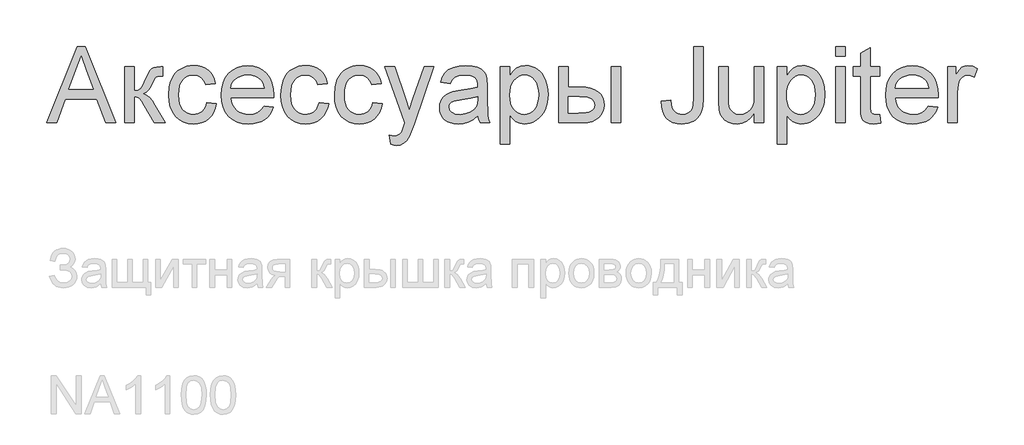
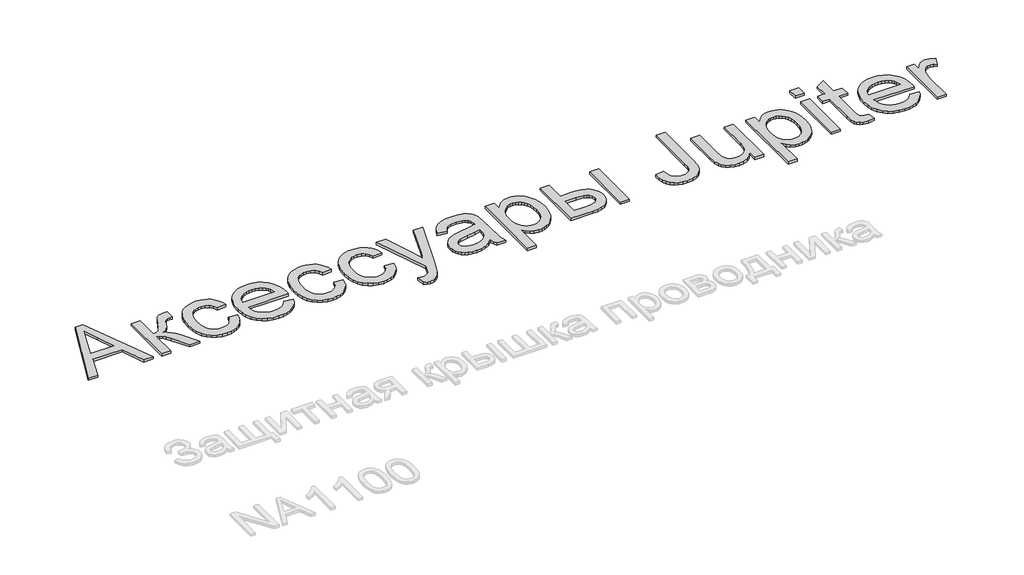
# One storey, part 80 of 124: 1 proxy.
"""IFC4 building model written with IfcOpenShell, lengths in millimetres."""

import ifcopenshell
import ifcopenshell.guid

model = None  # the IFC model being written
_history = None  # IfcOwnerHistory: only IFC2X3 demands one
_inside = {}  # id of a spatial element -> (the spatial element, [elements in it])
_under = {}  # id of a project, library or spatial element -> (it, [spatial elements below it])
_declared = {}  # id of a project -> (the project, [libraries it declares])
_typed = {}  # id of a type object -> (the type object, [elements of that type])
_made_of = {}  # id of a material, layer set ... -> (it, [elements and type objects made of it])


def new_model(schema):
    """Start an empty IFC model of exactly this schema.

    Asked for "IFC4X3", IfcOpenShell would pick the latest addendum, in which some entities
    have other attributes; the version numbers below select the first issue.
    IFC2X3 requires an IfcOwnerHistory on every rooted entity: one is made here for all.
    """
    global model, _history
    if schema == "IFC4X3":
        model = ifcopenshell.file(schema_version=(4, 3, 0, 0))
    else:
        model = ifcopenshell.file(schema=schema)
    _inside.clear()
    _under.clear()
    _declared.clear()
    _typed.clear()
    _made_of.clear()
    _history = None
    if model.schema == "IFC2X3":
        org = make("IfcOrganization", Name="unknown")
        user = make(
            "IfcPersonAndOrganization",
            ThePerson=make("IfcPerson", FamilyName="unknown"),
            TheOrganization=org,
        )
        app = make(
            "IfcApplication",
            ApplicationDeveloper=org,
            Version="unknown",
            ApplicationFullName="unknown",
            ApplicationIdentifier="unknown",
        )
        _history = make(
            "IfcOwnerHistory",
            OwningUser=user,
            OwningApplication=app,
            ChangeAction="ADDED",
            CreationDate=0,
        )
    return model


def make(cls, **values):
    """One entity of the class cls with the attributes given. An attribute that is None is left unset."""
    return model.create_entity(
        cls, **{name: value for name, value in values.items() if value is not None}
    )


def rooted(cls, **values):
    """An entity with a GlobalId (a new one), such as an element, a storey or a relation."""
    return make(cls, GlobalId=ifcopenshell.guid.new(), OwnerHistory=_history, **values)


def si_unit(unit_type, name, prefix=None):
    """IfcSIUnit, for example si_unit("LENGTHUNIT", "METRE", prefix="MILLI")."""
    return make("IfcSIUnit", UnitType=unit_type, Prefix=prefix, Name=name)


def assignment(units):
    """IfcUnitAssignment: the units of a project."""
    return None if units is None else make("IfcUnitAssignment", Units=units)


def point(xyz):
    """IfcCartesianPoint."""
    return None if xyz is None else make("IfcCartesianPoint", Coordinates=xyz)


def direction(xyz):
    """IfcDirection."""
    return None if xyz is None else make("IfcDirection", DirectionRatios=xyz)


def frame(location, z_axis=None, x_axis=None):
    """IfcAxis2Placement3D, a coordinate frame: its origin and axes. An axis left out is left unset."""
    return make(
        "IfcAxis2Placement3D",
        Location=point(location),
        Axis=direction(z_axis),
        RefDirection=direction(x_axis),
    )


def origin():
    """The frame at (0, 0, 0) with its axes left unset."""
    return frame((0.0, 0.0, 0.0))


def origin_with_axes():
    """The frame at (0, 0, 0) with the z axis (0, 0, 1) and the x axis (1, 0, 0) written out."""
    return frame((0.0, 0.0, 0.0), z_axis=(0.0, 0.0, 1.0), x_axis=(1.0, 0.0, 0.0))


def place(relative_to, where):
    """IfcLocalPlacement: puts the frame where relative to a parent placement (None: the world)."""
    return make(
        "IfcLocalPlacement", PlacementRelTo=relative_to, RelativePlacement=where
    )


def context(
    kind, dimensions, precision=None, world=None, true_north=None, identifier=None
):
    """IfcGeometricRepresentationContext, for example the 3D "Model" context."""
    return make(
        "IfcGeometricRepresentationContext",
        ContextIdentifier=identifier,
        ContextType=kind,
        CoordinateSpaceDimension=dimensions,
        Precision=precision,
        WorldCoordinateSystem=world,
        TrueNorth=true_north,
    )


def project(units=None, contexts=None):
    """IfcProject with its units and contexts."""
    return rooted(
        "IfcProject",
        Name="project",
        RepresentationContexts=contexts,
        UnitsInContext=assignment(units),
    )


def spatial(cls, under=None, at=None, **own):
    """A site, building, storey or space (cls), placed at a placement, below another one or the project."""
    s = rooted(cls, ObjectPlacement=at, **own)
    if under is not None:
        _under.setdefault(under.id(), (under, []))[1].append(s)
    return s


def polyline(points):
    """IfcPolyline through the points."""
    return make("IfcPolyline", Points=[point(p) for p in points])


def outline(outer, holes=None, kind="AREA"):
    """IfcArbitraryClosedProfileDef: a profile drawn as a closed curve; with holes, ...WithVoids."""
    if holes is None:
        return make("IfcArbitraryClosedProfileDef", ProfileType=kind, OuterCurve=outer)
    return make(
        "IfcArbitraryProfileDefWithVoids",
        ProfileType=kind,
        OuterCurve=outer,
        InnerCurves=holes,
    )


def extrude(swept, where, along, depth):
    """IfcExtrudedAreaSolid: the profile swept, set in the frame where, extruded along a direction by depth."""
    return make(
        "IfcExtrudedAreaSolid",
        SweptArea=swept,
        Position=where,
        ExtrudedDirection=direction(along),
        Depth=depth,
    )


def shape(context_of_items, identifier, shape_type, items):
    """IfcShapeRepresentation: the items that make up one representation, for example the "Body"."""
    return make(
        "IfcShapeRepresentation",
        ContextOfItems=context_of_items,
        RepresentationIdentifier=identifier,
        RepresentationType=shape_type,
        Items=items,
    )


def made_of(thing, what):
    """Note that an element or type object is made of a material, layer set ...; save() writes the relation."""
    if what is not None:
        _made_of.setdefault(what.id(), (what, []))[1].append(thing)
    return thing


def element(
    cls,
    number,
    at=None,
    inside=None,
    cuts=None,
    type_object=None,
    material=None,
    context=None,
    identifier="Body",
    shape_type=None,
    held_by="IfcProductDefinitionShape",
    body=None,
    shapes=None,
    **own,
):
    """One element of the class cls, such as IfcWall. Its Tag is "e" and its number.

    at: its placement. inside: the storey or other place that contains it. cuts: it is an
    opening in that element (IfcRelVoidsElement). A single representation is given by context,
    identifier, shape_type and body (its items); several are given by shapes. held_by: the class
    of the entity that holds the representations. save() writes the other relations.
    """
    e = rooted(cls, Tag="e%d" % number, ObjectPlacement=at, **own)
    if body is not None:
        shapes = [shape(context, identifier, shape_type, body)]
    if shapes is not None:
        e.Representation = make(held_by, Representations=shapes)
    if inside is not None:
        _inside.setdefault(inside.id(), (inside, []))[1].append(e)
    if cuts is not None:
        rooted(
            "IfcRelVoidsElement", RelatingBuildingElement=cuts, RelatedOpeningElement=e
        )
    if type_object is not None:
        _typed.setdefault(type_object.id(), (type_object, []))[1].append(e)
    return made_of(e, material)


def aggregate(whole, parts):
    """IfcRelAggregates: a whole, such as a stair, and the parts it consists of."""
    return rooted("IfcRelAggregates", RelatingObject=whole, RelatedObjects=parts)


def save(model, path):
    """Write the relations noted so far, then the file.

    IfcRelAggregates (storeys below a building ...), IfcRelContainedInSpatialStructure (elements
    in a storey), IfcRelDefinesByType, IfcRelAssociatesMaterial and IfcRelDeclares: one each for
    every whole, place, type object, material and project.
    """
    for whole, parts in _under.values():
        aggregate(whole, parts)
    for where, things in _inside.values():
        rooted(
            "IfcRelContainedInSpatialStructure",
            RelatedElements=things,
            RelatingStructure=where,
        )
    for kind, things in _typed.values():
        rooted("IfcRelDefinesByType", RelatedObjects=things, RelatingType=kind)
    for what, things in _made_of.values():
        rooted("IfcRelAssociatesMaterial", RelatedObjects=things, RelatingMaterial=what)
    for by, libraries in _declared.values():
        rooted("IfcRelDeclares", RelatingContext=by, RelatedDefinitions=libraries)
    model.write(path)


model = new_model("IFC4")

# Units and contexts
model_context = context("Model", 3, world=origin())
ifc_project = project(units=[si_unit("LENGTHUNIT", "METRE", prefix="MILLI")], contexts=[model_context])

# Site, building, storey
site = spatial("IfcSite", under=ifc_project)
building = spatial("IfcBuilding", under=site)
storey = spatial("IfcBuildingStorey", under=building, Name="Этаж 01", Elevation=0.0)

# Proxy
placement = place(None, origin())
element("IfcBuildingElementProxy", 1, Name="600 мм Arial", ObjectType="600 мм Arial", at=placement, inside=storey, context=model_context, shape_type="SweptSolid", body=[
    extrude(outline(polyline([(45202.6378802, -58774.498362), (45443.2327051, -58171.7605011), (45507.391325, -58171.7605011), (45747.9861499, -58774.498362), (45668.3764861, -58774.498362), (45599.3618238, -58586.1427805), (45351.1150535, -58586.1427805), (45282.247544, -58774.498362), (45202.6378802, -58774.498362)]), holes=[polyline([(45378.7797795, -58510.8005479), (45571.8442506, -58510.8005479), (45517.5448681, -58362.6176802), (45475.3120151, -58247.1027337), (45437.7880516, -58349.668234), (45378.7797795, -58510.8005479)])]), origin_with_axes(), (0.0, 0.0, 1.0), 20.0),
    extrude(outline(polyline([(45819.0609514, -58331.8627454), (45894.403184, -58331.8627454), (45894.403184, -58520.2183269), (45925.0477542, -58516.8338126), (45944.8765937, -58506.6802695), (45962.4245649, -58480.1927659), (45986.22653, -58427.8063697), (46005.411576, -58384.9665114), (46020.5867083, -58359.7482006), (46034.7501651, -58346.0078081), (46050.9001847, -58337.6017045), (46073.2490159, -58333.2974852), (46106.0089076, -58331.8627454), (46120.4298818, -58331.8627454), (46120.4298818, -58407.6464364), (46100.1227957, -58407.204978), (46076.578348, -58409.1915408), (46063.3345962, -58415.1512291), (46052.5924419, -58431.7427071), (46037.4357037, -58464.7417221), (46021.5248074, -58497.7959193), (46007.0486509, -58518.378917), (45989.5190738, -58532.1193095), (45964.4479158, -58544.6456914), (45988.3234573, -58555.2498899), (46011.9782696, -58573.9658864), (46035.4123527, -58600.7936809), (46058.6257066, -58635.7332734), (46139.26544, -58774.498362), (46053.6225115, -58774.498362), (45974.6014589, -58638.6763294), (45953.2643032, -58602.5319234), (45934.8702034, -58581.2131617), (45916.2921627, -58570.7837072), (45894.403184, -58567.3072223), (45894.403184, -58774.498362), (45819.0609514, -58774.498362), (45819.0609514, -58331.8627454)])), origin_with_axes(), (0.0, 0.0, 1.0), 20.0),
    extrude(outline(polyline([(46468.8877076, -58614.3961177), (46544.2299402, -58623.8138968), (46536.0353688, -58659.3650931), (46523.2238783, -58690.8236022), (46505.7954688, -58718.1894241), (46483.7501402, -58741.4625588), (46458.0167947, -58760.0360011), (46429.5243342, -58773.3027455), (46398.2727587, -58781.2627922), (46364.2620682, -58783.9161411), (46322.0062225, -58780.2143285), (46284.1189756, -58769.1088908), (46250.6003273, -58750.5998279), (46221.4502777, -58724.6871399), (46197.8552462, -58691.8582703), (46181.0016523, -58652.6006629), (46170.889496, -58606.9143176), (46167.5187772, -58554.7992345), (46173.2761304, -58487.7527409), (46180.4728219, -58457.5818187), (46190.5481901, -58429.6457797), (46203.5712127, -58404.5056439), (46219.6108677, -58382.7224312), (46238.6671551, -58364.2961418), (46260.7400748, -58349.2267756), (46284.8317469, -58337.509734), (46309.9442916, -58329.1404186), (46336.0777089, -58324.1188294), (46363.2319986, -58322.4449663), (46396.6586764, -58324.7442288), (46426.8939779, -58331.6420162), (46453.9379031, -58343.1383286), (46477.7904519, -58359.2331658), (46498.0469543, -58379.5586461), (46514.3027399, -58403.7468873), (46526.5578089, -58431.7978894), (46534.8121612, -58463.7116525), (46459.4699286, -58473.1294316), (46445.8031124, -58440.2591753), (46424.521139, -58416.6963335), (46396.8012307, -58402.5144826), (46363.8206098, -58397.7871989), (46338.2206215, -58400.1140526), (46315.1314278, -58407.0946134), (46294.5530286, -58418.7288815), (46276.4854242, -58435.0168569), (46261.7747429, -58456.3356185), (46251.2671134, -58483.0622454), (46244.9625357, -58515.1967377), (46242.8610098, -58552.7390953), (46244.9165504, -58590.8470715), (46251.0831724, -58623.3540443), (46261.3608756, -58650.2600137), (46275.7496602, -58671.5649798), (46293.4585797, -58687.7563861), (46313.696688, -58699.3216763), (46336.4639849, -58706.2608504), (46361.7604706, -58708.5739085), (46400.7743562, -58702.7981611), (46417.6463442, -58695.578477), (46432.7616957, -58685.4709192), (46445.6973464, -58672.3651231), (46456.0302319, -58656.1507242), (46463.7603523, -58636.8277224), (46468.8877076, -58614.3961177)])), origin_with_axes(), (0.0, 0.0, 1.0), 20.0),
    extrude(outline(polyline([(46920.0581865, -58642.6494549), (46993.9288912, -58652.067234), (46982.6027242, -58681.6541435), (46967.3126288, -58707.7277799), (46948.0586049, -58730.2881432), (46924.8406525, -58749.3352335), (46897.8978948, -58764.4643806), (46867.4694553, -58775.2709142), (46833.5553339, -58781.7548344), (46796.1555305, -58783.9161411), (46749.406926, -58780.1867374), (46707.7534871, -58768.9985262), (46671.1952138, -58750.3515075), (46639.7321062, -58724.2456815), (46614.431022, -58691.4076149), (46596.358819, -58652.5638747), (46585.5154972, -58607.714461), (46581.9010566, -58556.8593737), (46585.5522854, -58504.2798395), (46596.5059718, -58457.9359052), (46614.7621158, -58417.8275706), (46640.3207174, -58383.9548359), (46671.7010516, -58357.044268), (46707.4223933, -58337.8224337), (46747.4847426, -58326.2893332), (46791.8880994, -58322.4449663), (46834.861315, -58326.2801361), (46873.7234492, -58337.7856455), (46908.4745022, -58356.9614945), (46939.1144739, -58383.8076831), (46964.125851, -58417.6068414), (46981.9911204, -58457.6415996), (46992.710282, -58503.9119575), (46996.2833359, -58556.4179153), (46995.8418775, -58576.7250014), (46657.2432892, -58576.7250014), (46661.6072893, -58606.7901575), (46670.2847059, -58633.1213113), (46683.2755389, -58655.7184628), (46700.5797882, -58674.5816121), (46721.2409608, -58689.4532418), (46744.3025633, -58700.0758344), (46769.7645959, -58706.4493899), (46797.6270585, -58708.5739085), (46837.726196, -58704.6375711), (46871.4977632, -58692.8285591), (46898.94176, -58672.4111083), (46920.0581865, -58642.6494549)]), holes=[polyline([(46657.2432892, -58501.3827688), (46920.9411033, -58501.3827688), (46910.750772, -58461.5779369), (46901.9859835, -58445.924558), (46890.7747797, -58433.1038705), (46870.2285703, -58417.6528267), (46846.8496695, -58406.6163668), (46820.6380773, -58399.9944909), (46791.5937938, -58397.7871989), (46765.1016916, -58399.548434), (46740.8076844, -58404.8321391), (46718.711772, -58413.6383144), (46698.8139546, -58425.9669598), (46682.1167106, -58441.2478581), (46669.6225183, -58458.9107924), (46661.3313778, -58478.9557627), (46657.2432892, -58501.3827688)])]), origin_with_axes(), (0.0, 0.0, 1.0), 20.0),
    extrude(outline(polyline([(47354.1589408, -58614.3961177), (47429.5011734, -58623.8138968), (47421.306602, -58659.3650931), (47408.4951115, -58690.8236022), (47391.066702, -58718.1894241), (47369.0213734, -58741.4625588), (47343.2880279, -58760.0360011), (47314.7955673, -58773.3027455), (47283.5439919, -58781.2627922), (47249.5333014, -58783.9161411), (47207.2774557, -58780.2143285), (47169.3902088, -58769.1088908), (47135.8715605, -58750.5998279), (47106.7215109, -58724.6871399), (47083.1264794, -58691.8582703), (47066.2728855, -58652.6006629), (47056.1607292, -58606.9143176), (47052.7900104, -58554.7992345), (47058.5473636, -58487.7527409), (47065.7440551, -58457.5818187), (47075.8194233, -58429.6457797), (47088.8424459, -58404.5056439), (47104.8821009, -58382.7224312), (47123.9383882, -58364.2961418), (47146.011308, -58349.2267756), (47170.1029801, -58337.509734), (47195.2155248, -58329.1404186), (47221.348942, -58324.1188294), (47248.5032318, -58322.4449663), (47281.9299096, -58324.7442288), (47312.1652111, -58331.6420162), (47339.2091363, -58343.1383286), (47363.0616851, -58359.2331658), (47383.3181875, -58379.5586461), (47399.5739731, -58403.7468873), (47411.8290421, -58431.7978894), (47420.0833944, -58463.7116525), (47344.7411618, -58473.1294316), (47331.0743456, -58440.2591753), (47309.7923722, -58416.6963335), (47282.0724639, -58402.5144826), (47249.091843, -58397.7871989), (47223.4918547, -58400.1140526), (47200.4026609, -58407.0946134), (47179.8242618, -58418.7288815), (47161.7566574, -58435.0168569), (47147.0459761, -58456.3356185), (47136.5383466, -58483.0622454), (47130.2337689, -58515.1967377), (47128.132243, -58552.7390953), (47130.1877836, -58590.8470715), (47136.3544056, -58623.3540443), (47146.6321088, -58650.2600137), (47161.0208934, -58671.5649798), (47178.7298129, -58687.7563861), (47198.9679212, -58699.3216763), (47221.7352181, -58706.2608504), (47247.0317038, -58708.5739085), (47286.0455894, -58702.7981611), (47302.9175774, -58695.578477), (47318.0329289, -58685.4709192), (47330.9685796, -58672.3651231), (47341.3014651, -58656.1507242), (47349.0315855, -58636.8277224), (47354.1589408, -58614.3961177)])), origin_with_axes(), (0.0, 0.0, 1.0), 20.0),
    extrude(outline(polyline([(47777.9589993, -58614.3961177), (47853.3012319, -58623.8138968), (47845.1066604, -58659.3650931), (47832.29517, -58690.8236022), (47814.8667604, -58718.1894241), (47792.8214319, -58741.4625588), (47767.0880863, -58760.0360011), (47738.5956258, -58773.3027455), (47707.3440503, -58781.2627922), (47673.3333598, -58783.9161411), (47631.0775142, -58780.2143285), (47593.1902672, -58769.1088908), (47559.6716189, -58750.5998279), (47530.5215693, -58724.6871399), (47506.9265379, -58691.8582703), (47490.0729439, -58652.6006629), (47479.9607876, -58606.9143176), (47476.5900688, -58554.7992345), (47482.347422, -58487.7527409), (47489.5441136, -58457.5818187), (47499.6194817, -58429.6457797), (47512.6425044, -58404.5056439), (47528.6821593, -58382.7224312), (47547.7384467, -58364.2961418), (47569.8113664, -58349.2267756), (47593.9030386, -58337.509734), (47619.0155833, -58329.1404186), (47645.1490005, -58324.1188294), (47672.3032903, -58322.4449663), (47705.729968, -58324.7442288), (47735.9652695, -58331.6420162), (47763.0091947, -58343.1383286), (47786.8617436, -58359.2331658), (47807.1182459, -58379.5586461), (47823.3740316, -58403.7468873), (47835.6291005, -58431.7978894), (47843.8834528, -58463.7116525), (47768.5412202, -58473.1294316), (47754.8744041, -58440.2591753), (47733.5924307, -58416.6963335), (47705.8725223, -58402.5144826), (47672.8919015, -58397.7871989), (47647.2919131, -58400.1140526), (47624.2027194, -58407.0946134), (47603.6243203, -58418.7288815), (47585.5567158, -58435.0168569), (47570.8460345, -58456.3356185), (47560.338405, -58483.0622454), (47554.0338273, -58515.1967377), (47551.9323014, -58552.7390953), (47553.9878421, -58590.8470715), (47560.154464, -58623.3540443), (47570.4321673, -58650.2600137), (47584.8209518, -58671.5649798), (47602.5298713, -58687.7563861), (47622.7679796, -58699.3216763), (47645.5352766, -58706.2608504), (47670.8317623, -58708.5739085), (47709.8456479, -58702.7981611), (47726.7176359, -58695.578477), (47741.8329873, -58685.4709192), (47754.768638, -58672.3651231), (47765.1015235, -58656.1507242), (47772.831644, -58636.8277224), (47777.9589993, -58614.3961177)])), origin_with_axes(), (0.0, 0.0, 1.0), 20.0),
    extrude(outline(polyline([(47919.2256854, -58944.0183854), (47909.8079063, -58871.4720559), (47948.0676338, -58878.0939318), (47968.190779, -58876.0153986), (47983.8257638, -58869.7797988), (47996.0026578, -58859.8285908), (48005.7515307, -58846.6032331), (48026.3529224, -58791.1266282), (48032.2390343, -58772.8796812), (47872.13679, -58331.8627454), (47951.599301, -58331.8627454), (48036.5064655, -58577.6079182), (48066.0841779, -58675.9059873), (48095.6618903, -58589.0858364), (48182.9234996, -58331.8627454), (48261.7973993, -58331.8627454), (48107.7284197, -58785.0933635), (48067.7028587, -58883.3914326), (48047.2118315, -58914.7717668), (48023.9984776, -58936.5135927), (47997.0327274, -58949.2055215), (47965.2845112, -58953.4361645), (47943.4691089, -58951.0817197), (47919.2256854, -58944.0183854)])), origin_with_axes(), (0.0, 0.0, 1.0), 20.0),
    extrude(outline(polyline([(48606.723558, -58717.9916875), (48570.7263048, -58748.8569869), (48533.6621938, -58769.0537085), (48494.6850964, -58780.2005329), (48452.948884, -58783.9161411), (48419.4026446, -58781.681258), (48389.9858805, -58774.9766086), (48364.6985919, -58763.802193), (48343.5407787, -58748.1580111), (48326.8343376, -58729.0373444), (48314.9011653, -58707.4334743), (48307.741262, -58683.3464006), (48305.3546276, -58656.7761235), (48308.9598711, -58625.5429422), (48319.7756018, -58597.1792403), (48336.4590503, -58572.8990286), (48357.6674473, -58553.9163177), (48382.5914524, -58539.5689199), (48410.4217254, -58529.1946476), (48475.6104149, -58517.8638822), (48552.6449047, -58505.9445055), (48606.2820996, -58491.9649897), (48606.723558, -58475.1895707), (48601.5364219, -58441.5651564), (48595.0525017, -58429.1123508), (48585.9750135, -58419.5658131), (48570.2848464, -58410.0376694), (48551.1733767, -58403.2318525), (48502.6865298, -58397.7871989), (48457.8049264, -58401.4108366), (48426.4613804, -58412.2817496), (48405.0874365, -58432.3865006), (48390.1146392, -58463.7116525), (48314.7724066, -58454.2938734), (48327.8506116, -58413.0910899), (48347.3667514, -58380.7174744), (48375.141842, -58355.9590161), (48412.9968993, -58337.6017045), (48459.2948484, -58326.2341509), (48512.3986144, -58322.4449663), (48563.3318767, -58325.7926925), (48603.7069256, -58335.835871), (48634.1491607, -58350.9374269), (48655.2839814, -58369.4602853), (48669.3002854, -58392.3609395), (48678.3869707, -58420.5958826), (48682.0657906, -58486.5203362), (48682.0657906, -58580.2566685), (48685.8917634, -58711.1490824), (48691.5571461, -58743.5043039), (48700.9013488, -58774.498362), (48625.5591162, -58774.498362), (48613.4925867, -58748.3051639), (48606.723558, -58717.9916875)]), holes=[polyline([(48606.723558, -58567.3072223), (48556.1029955, -58579.8519984), (48485.1753468, -58590.4102116), (48420.3545393, -58602.6238939), (48403.4871498, -58610.9748151), (48390.997556, -58622.4895216), (48383.2720341, -58636.2850964), (48380.6968602, -58651.4786228), (48386.3070606, -58673.8826363), (48403.1376619, -58692.2399479), (48430.820782, -58704.4904183), (48468.988539, -58708.5739085), (48509.4555585, -58704.067354), (48545.2136884, -58690.5476907), (48574.2027896, -58670.6268807), (48594.362723, -58646.9168861), (48603.3022555, -58622.4895216), (48606.2820996, -58588.644378), (48606.723558, -58567.3072223)])]), origin_with_axes(), (0.0, 0.0, 1.0), 20.0),
    extrude(outline(polyline([(48785.6613605, -58944.0183854), (48785.6613605, -58331.8627454), (48861.0035931, -58331.8627454), (48861.0035931, -58405.73345), (48885.5781104, -58369.2947384), (48913.0956836, -58343.2670873), (48945.1749936, -58327.6504966), (48983.4347211, -58322.4449663), (49009.7106926, -58324.2659822), (49034.3863774, -58329.7290298), (49057.4617755, -58338.8341092), (49078.936887, -58351.5812203), (49098.3426623, -58367.6392694), (49115.2100517, -58386.6771627), (49129.5390555, -58408.6949001), (49141.3296734, -58433.6924817), (49157.111811, -58489.2058747), (49162.3725235, -58549.7960393), (49156.4312293, -58614.2305708), (49149.0046115, -58643.8956552), (49138.6073466, -58671.8592853), (49125.3819889, -58697.3902958), (49109.4710926, -58719.7575211), (49090.8746578, -58738.9609613), (49069.5926843, -58755.0006163), (49046.6690375, -58767.6511584), (49023.1475824, -58776.6872599), (48999.0283191, -58782.1089208), (48974.3112476, -58783.9161411), (48939.6751577, -58779.0784928), (48908.754676, -58764.5655481), (48882.2855665, -58742.6581753), (48861.0035931, -58715.6372428), (48861.0035931, -58944.0183854), (48785.6613605, -58944.0183854)]), holes=[polyline([(48861.0035931, -58556.7122209), (48863.0407396, -58593.0221738), (48869.1521793, -58624.2553552), (48879.337912, -58650.411765), (48893.5979378, -58671.4914034), (48910.7642314, -58687.7149993), (48929.6687675, -58699.3032822), (48950.3115459, -58706.2562519), (48972.6925668, -58708.5739085), (48995.3954844, -58706.1734784), (49016.4153419, -58698.9721884), (49035.7521393, -58686.9700383), (49053.4058766, -58670.1670282), (49068.1165578, -58648.3240347), (49078.6241873, -58621.2019346), (49084.928765, -58588.8007279), (49087.0302909, -58551.1204145), (49084.9793488, -58515.1231613), (49078.8265224, -58483.9451622), (49068.5718118, -58457.5864173), (49054.2152169, -58436.0469264), (49037.0075366, -58419.3082957), (49018.1995696, -58407.3521308), (48997.7913159, -58400.1784319), (48975.7827756, -58397.7871989), (48953.8432131, -58400.3301832), (48933.2004346, -58407.9591361), (48913.8544402, -58420.6740576), (48895.8052298, -58438.4749476), (48880.5795137, -58461.1226829), (48869.7040023, -58488.3781403), (48863.1786954, -58520.2413196), (48861.0035931, -58556.7122209)])]), origin_with_axes(), (0.0, 0.0, 1.0), 20.0),
    extrude(outline(polyline([(49661.5148146, -58331.8627454), (49736.8570472, -58331.8627454), (49736.8570472, -58774.498362), (49661.5148146, -58774.498362), (49661.5148146, -58331.8627454)])), origin_with_axes(), (0.0, 0.0, 1.0), 20.0),
    extrude(outline(polyline([(49247.1325352, -58331.8627454), (49322.4747678, -58331.8627454), (49322.4747678, -58491.9649897), (49415.622489, -58491.9649897), (49458.48534, -58494.324033), (49496.1334636, -58501.4011629), (49528.56686, -58513.1963794), (49555.7855292, -58529.7096824), (49577.3204215, -58550.370855), (49592.7024874, -58574.6096799), (49601.9317269, -58602.4261573), (49605.0081401, -58633.820287), (49602.4283676, -58661.8299025), (49594.6890502, -58687.7333934), (49581.7901877, -58711.53076), (49563.7317803, -58733.2220021), (49540.0079901, -58751.2804096), (49510.1129795, -58764.179272), (49474.0467484, -58771.9185895), (49431.8092968, -58774.498362), (49247.1325352, -58774.498362), (49247.1325352, -58331.8627454)]), holes=[polyline([(49322.4747678, -58699.1561294), (49399.8771396, -58699.1561294), (49459.878693, -58695.2013979), (49482.3470859, -58690.2579836), (49499.7938895, -58683.3372036), (49512.8628974, -58674.3194962), (49522.197903, -58663.0852998), (49527.7989064, -58649.6346143), (49529.6659075, -58633.9674398), (49524.1292835, -58609.3561344), (49507.5194114, -58587.6143085), (49493.1030357, -58578.7299583), (49472.0004048, -58572.3839939), (49409.7363771, -58567.3072223), (49322.4747678, -58567.3072223), (49322.4747678, -58699.1561294)])]), origin_with_axes(), (0.0, 0.0, 1.0), 20.0),
    extrude(outline(polyline([(50057.0615358, -58605.2726442), (50132.4037684, -58595.5605595), (50135.0617158, -58625.515351), (50140.2396549, -58650.3381886), (50147.9375857, -58670.0290724), (50158.1555081, -58684.5880024), (50170.7370723, -58695.0818363), (50185.5259285, -58702.5774319), (50202.5220767, -58707.0747893), (50221.7255168, -58708.5739085), (50249.5557898, -58705.171), (50273.3025726, -58694.9622746), (50291.6230959, -58678.8858315), (50303.1745906, -58657.8797695), (50309.2998258, -58627.4743226), (50311.3415709, -58583.1997245), (50311.3415709, -58171.7605011), (50386.6838035, -58171.7605011), (50386.6838035, -58581.8753493), (50382.1404608, -58648.9586311), (50376.4612825, -58676.0853298), (50368.5104329, -58698.9354002), (50358.0901754, -58718.4193504), (50345.0027734, -58735.4476882), (50329.248227, -58750.0204137), (50310.8265361, -58762.137527), (50267.9131013, -58778.4714875), (50218.1938497, -58783.9161411), (50181.0653593, -58781.1064423), (50148.553788, -58772.6773461), (50120.6591357, -58758.6288524), (50097.3814025, -58738.9609613), (50079.1344555, -58713.747249), (50066.3321621, -58683.0612921), (50058.9745222, -58646.9030905), (50057.0615358, -58605.2726442)])), origin_with_axes(), (0.0, 0.0, 1.0), 20.0),
    extrude(outline(polyline([(50791.6483038, -58774.498362), (50791.6483038, -58698.4203654), (50764.3882479, -58735.8247673), (50732.6400317, -58762.5421972), (50696.4036552, -58778.5726551), (50655.6791183, -58783.9161411), (50618.9828893, -58780.1637447), (50584.8250461, -58768.9065557), (50556.1670386, -58751.9839839), (50535.9703171, -58731.2354394), (50522.3770774, -58706.0355227), (50513.5295154, -58675.7588345), (50509.1149315, -58605.7141026), (50509.1149315, -58331.8627454), (50584.4571641, -58331.8627454), (50584.4571641, -58570.2502783), (50585.5975983, -58617.9277849), (50589.0189008, -58647.0640389), (50600.0001784, -58672.6870198), (50618.8173424, -58692.1663715), (50644.2195942, -58704.4720242), (50674.9561349, -58708.5739085), (50707.4585092, -58704.3800537), (50737.8639561, -58691.7984895), (50762.935114, -58671.988044), (50779.4346215, -58646.1075457), (50788.5948832, -58610.6621155), (50791.6483038, -58562.1568744), (50791.6483038, -58331.8627454), (50866.9905364, -58331.8627454), (50866.9905364, -58774.498362), (50791.6483038, -58774.498362)])), origin_with_axes(), (0.0, 0.0, 1.0), 20.0),
    extrude(outline(polyline([(50970.5861062, -58944.0183854), (50970.5861062, -58331.8627454), (51045.9283388, -58331.8627454), (51045.9283388, -58405.73345), (51070.5028561, -58369.2947384), (51098.0204293, -58343.2670873), (51130.0997393, -58327.6504966), (51168.3594668, -58322.4449663), (51194.6354383, -58324.2659822), (51219.3111232, -58329.7290298), (51242.3865213, -58338.8341092), (51263.8616328, -58351.5812203), (51283.267408, -58367.6392694), (51300.1347975, -58386.6771627), (51314.4638012, -58408.6949001), (51326.2544192, -58433.6924817), (51342.0365567, -58489.2058747), (51347.2972693, -58549.7960393), (51341.3559751, -58614.2305708), (51333.9293573, -58643.8956552), (51323.5320924, -58671.8592853), (51310.3067347, -58697.3902958), (51294.3958384, -58719.7575211), (51275.7994035, -58738.9609613), (51254.5174301, -58755.0006163), (51231.5937833, -58767.6511584), (51208.0723282, -58776.6872599), (51183.9530649, -58782.1089208), (51159.2359933, -58783.9161411), (51124.5999035, -58779.0784928), (51093.6794218, -58764.5655481), (51067.2103122, -58742.6581753), (51045.9283388, -58715.6372428), (51045.9283388, -58944.0183854), (50970.5861062, -58944.0183854)]), holes=[polyline([(51045.9283388, -58556.7122209), (51047.9654854, -58593.0221738), (51054.076925, -58624.2553552), (51064.2626578, -58650.411765), (51078.5226836, -58671.4914034), (51095.6889772, -58687.7149993), (51114.5935132, -58699.3032822), (51135.2362917, -58706.2562519), (51157.6173126, -58708.5739085), (51180.3202302, -58706.1734784), (51201.3400877, -58698.9721884), (51220.6768851, -58686.9700383), (51238.3306223, -58670.1670282), (51253.0413036, -58648.3240347), (51263.5489331, -58621.2019346), (51269.8535108, -58588.8007279), (51271.9550367, -58551.1204145), (51269.9040945, -58515.1231613), (51263.7512682, -58483.9451622), (51253.4965576, -58457.5864173), (51239.1399627, -58436.0469264), (51221.9322824, -58419.3082957), (51203.1243154, -58407.3521308), (51182.7160617, -58400.1784319), (51160.7075213, -58397.7871989), (51138.7679588, -58400.3301832), (51118.1251804, -58407.9591361), (51098.779186, -58420.6740576), (51080.7299756, -58438.4749476), (51065.5042595, -58461.1226829), (51054.628748, -58488.3781403), (51048.1034411, -58520.2413196), (51045.9283388, -58556.7122209)])]), origin_with_axes(), (0.0, 0.0, 1.0), 20.0),
    extrude(outline(polyline([(51432.057281, -58247.1027337), (51432.057281, -58171.7605011), (51507.3995136, -58171.7605011), (51507.3995136, -58247.1027337), (51432.057281, -58247.1027337)])), origin_with_axes(), (0.0, 0.0, 1.0), 20.0),
    extrude(outline(polyline([(51432.057281, -58774.498362), (51432.057281, -58331.8627454), (51507.3995136, -58331.8627454), (51507.3995136, -58774.498362), (51432.057281, -58774.498362)])), origin_with_axes(), (0.0, 0.0, 1.0), 20.0),
    extrude(outline(polyline([(51780.5151068, -58711.6641172), (51789.9328859, -58776.705654), (51733.5733642, -58783.9161411), (51697.4105641, -58780.7891441), (51670.4448138, -58771.4081532), (51651.3885265, -58756.9503908), (51638.9541151, -58738.5930793), (51632.1115099, -58707.0655923), (51629.8306416, -58653.0973036), (51629.8306416, -58407.204978), (51573.3239671, -58407.204978), (51573.3239671, -58331.8627454), (51629.8306416, -58331.8627454), (51629.8306416, -58224.29405), (51705.1728742, -58180.0010578), (51705.1728742, -58331.8627454), (51780.5151068, -58331.8627454), (51780.5151068, -58407.204978), (51705.1728742, -58407.204978), (51705.1728742, -58650.8900116), (51709.1459997, -58689.7383503), (51722.0218696, -58703.4971369), (51732.8927825, -58707.3047156), (51747.7000328, -58708.5739085), (51780.5151068, -58711.6641172)])), origin_with_axes(), (0.0, 0.0, 1.0), 20.0),
    extrude(outline(polyline([(52165.7611321, -58642.6494549), (52239.6318368, -58652.067234), (52228.3056699, -58681.6541435), (52213.0155744, -58707.7277799), (52193.7615505, -58730.2881432), (52170.5435981, -58749.3352335), (52143.6008405, -58764.4643806), (52113.1724009, -58775.2709142), (52079.2582795, -58781.7548344), (52041.8584762, -58783.9161411), (51995.1098716, -58780.1867374), (51953.4564327, -58768.9985262), (51916.8981595, -58750.3515075), (51885.4350518, -58724.2456815), (51860.1339676, -58691.4076149), (51842.0617646, -58652.5638747), (51831.2184428, -58607.714461), (51827.6040022, -58556.8593737), (51831.255231, -58504.2798395), (51842.2089174, -58457.9359052), (51860.4650614, -58417.8275706), (51886.023663, -58383.9548359), (51917.4039972, -58357.044268), (51953.1253389, -58337.8224337), (51993.1876882, -58326.2893332), (52037.591045, -58322.4449663), (52080.5642606, -58326.2801361), (52119.4263949, -58337.7856455), (52154.1774478, -58356.9614945), (52184.8174195, -58383.8076831), (52209.8287966, -58417.6068414), (52227.694066, -58457.6415996), (52238.4132277, -58503.9119575), (52241.9862815, -58556.4179153), (52241.5448232, -58576.7250014), (51902.9462348, -58576.7250014), (51907.310235, -58606.7901575), (51915.9876515, -58633.1213113), (51928.9784845, -58655.7184628), (51946.2827338, -58674.5816121), (51966.9439064, -58689.4532418), (51990.0055089, -58700.0758344), (52015.4675415, -58706.4493899), (52043.3300042, -58708.5739085), (52083.4291416, -58704.6375711), (52117.2007088, -58692.8285591), (52144.6447056, -58672.4111083), (52165.7611321, -58642.6494549)]), holes=[polyline([(51902.9462348, -58501.3827688), (52166.6440489, -58501.3827688), (52156.4537177, -58461.5779369), (52147.6889291, -58445.924558), (52136.4777253, -58433.1038705), (52115.9315159, -58417.6528267), (52092.5526151, -58406.6163668), (52066.3410229, -58399.9944909), (52037.2967394, -58397.7871989), (52010.8046373, -58399.548434), (51986.51063, -58404.8321391), (51964.4147177, -58413.6383144), (51944.5169002, -58425.9669598), (51927.8196562, -58441.2478581), (51915.3254639, -58458.9107924), (51907.0343235, -58478.9557627), (51902.9462348, -58501.3827688)])]), origin_with_axes(), (0.0, 0.0, 1.0), 20.0),
    extrude(outline(polyline([(52317.3285142, -58774.498362), (52317.3285142, -58331.8627454), (52383.2529677, -58331.8627454), (52383.2529677, -58397.3457405), (52407.6067558, -58359.3803186), (52430.0475575, -58337.0130933), (52452.5619356, -58326.0869981), (52477.1364529, -58322.4449663), (52514.6604164, -58328.2575019), (52552.7729911, -58345.6951084), (52527.6098626, -58413.2382427), (52501.1223589, -58401.6499599), (52474.6348553, -58397.7871989), (52452.1388713, -58401.5028071), (52432.0341203, -58412.6496315), (52415.7921302, -58430.3815437), (52404.884429, -58453.852415), (52395.7241673, -58495.9381153), (52392.6707468, -58541.8497883), (52392.6707468, -58774.498362), (52317.3285142, -58774.498362)])), origin_with_axes(), (0.0, 0.0, 1.0), 20.0),
])

save(model, "model.ifc")
